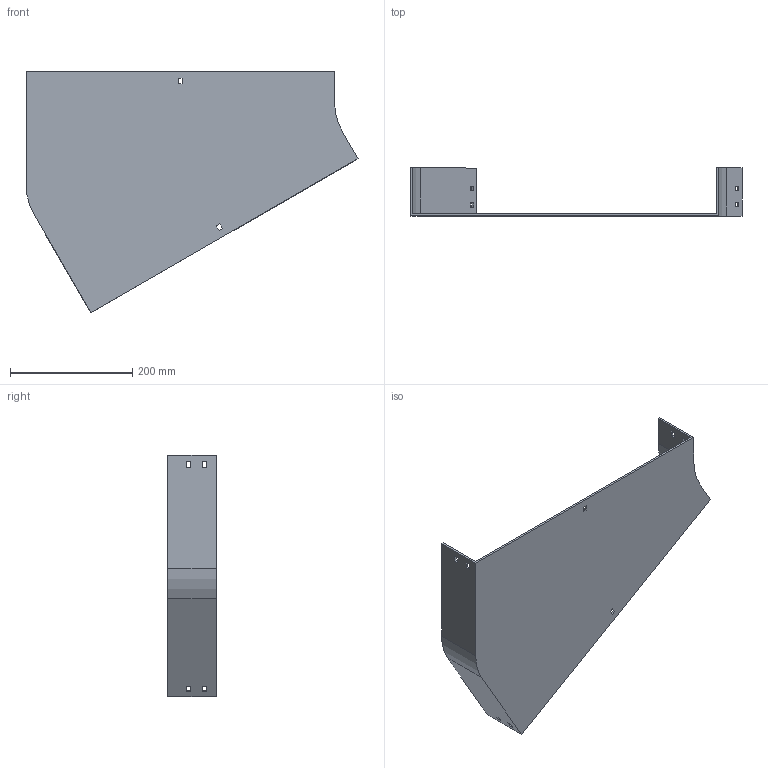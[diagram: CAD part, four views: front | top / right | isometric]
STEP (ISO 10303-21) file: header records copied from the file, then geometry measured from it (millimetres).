
FILE_DESCRIPTION (( 'STEP AP214' ), '1' );
FILE_NAME ('12B1C500.step', '2025-02-21T09:35:42', ( '' ), ( '' ), 'SwSTEP 2.0', 'SolidWorks 2023', '' );
FILE_SCHEMA (( 'AUTOMOTIVE_DESIGN' ));
Length unit declared in the file: millimetre
Products named in the file (1): 12B1C500
Bounding box: 542.4 x 79 x 395.3 mm (x, y, z)
Volume: 658679 mm3; surface area: 384153.9 mm2
Topology: 1 solids, 1 shells, 58 faces, 168 edges, 112 vertices
Faces by surface type: plane 54, cylinder 4
Entity records: 1943 total; most frequent: CARTESIAN_POINT 339, ORIENTED_EDGE 336, DIRECTION 294, EDGE_CURVE 168, LINE 160, VECTOR 160, VERTEX_POINT 112, EDGE_LOOP 78
